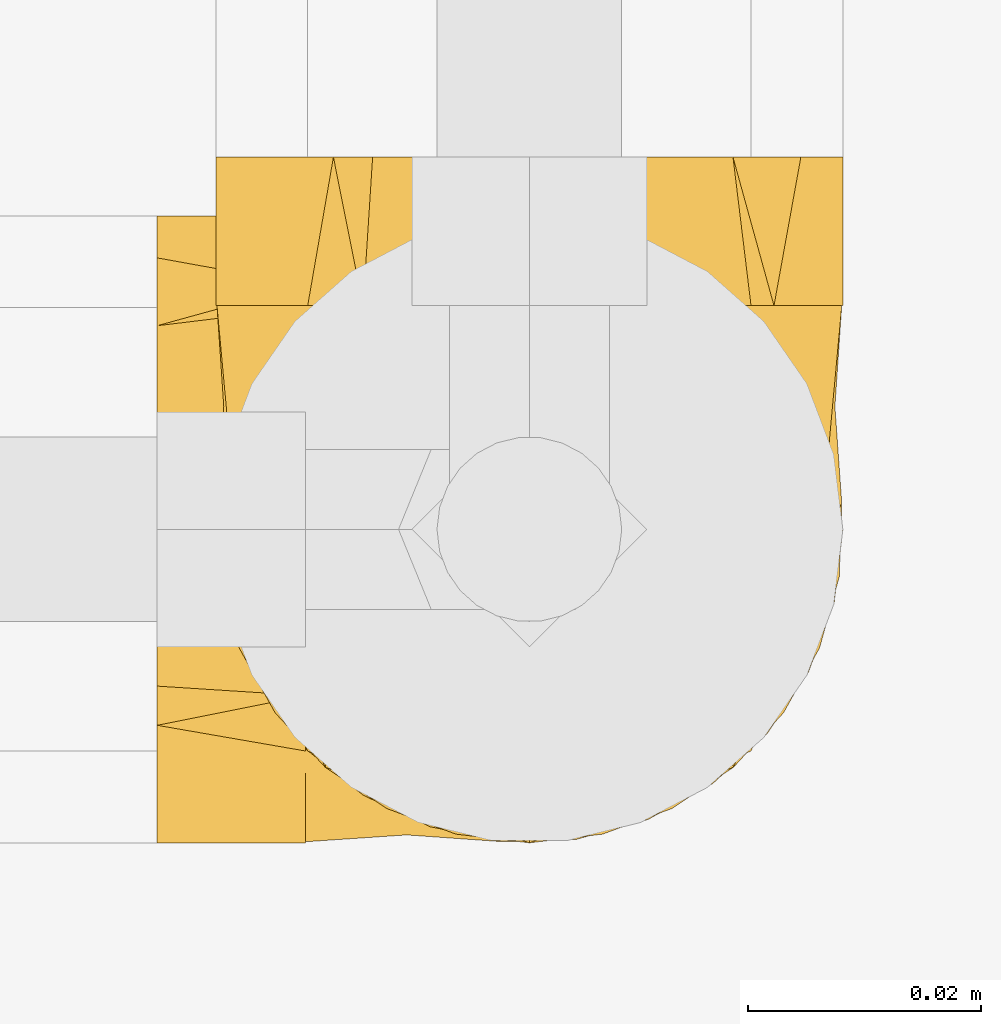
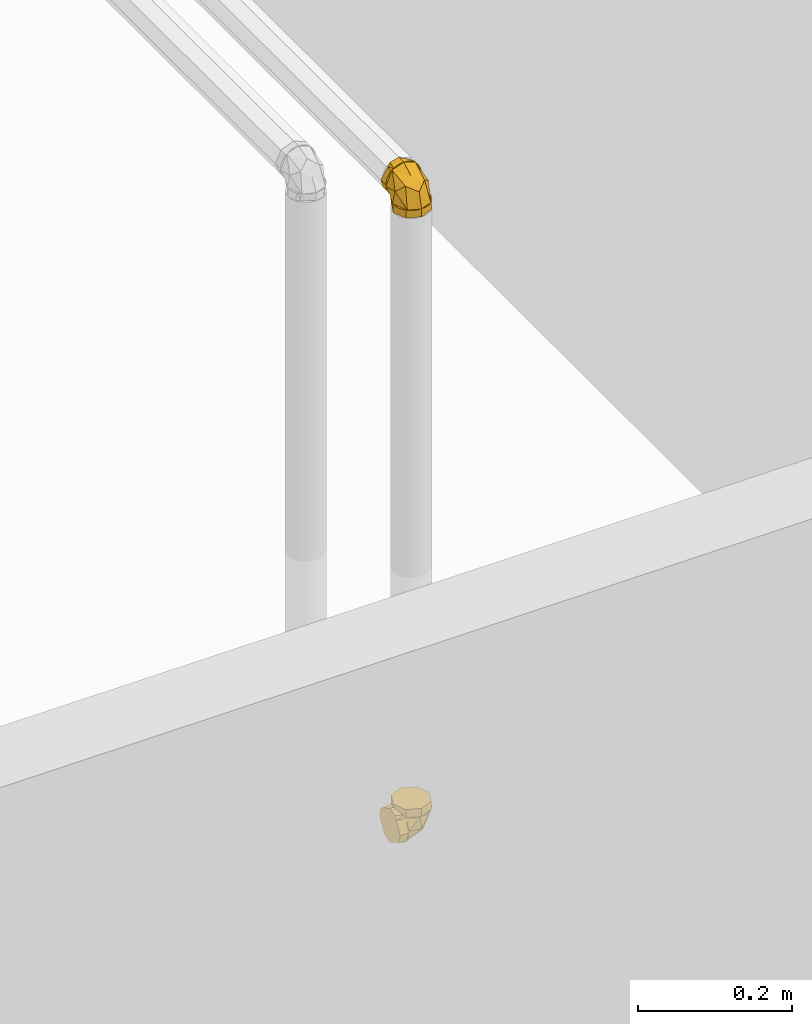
# One storey, part 357 of 652: 2 coverings.
"""IFC2X3 building model written with IfcOpenShell, lengths in millimetres."""

from ifc_helpers import new_model, entity, si_unit, converted_unit, direction, frame, origin, place, context, subcontext, project, spatial, face_set, surface_model, material, type_object, element, save


model = new_model("IFC2X3")

# Units and contexts
model_context = context("Model", 3, precision=0.01, world=frame((0.0, 0.0, 308426.39999999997)), true_north=direction((6.123233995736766e-17, 1.0)))
plan_context = context("Plan", 3, precision=0.01, world=frame((0.0, 0.0, 308426.39999999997)), true_north=direction((6.123233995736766e-17, 1.0)))
body_context = subcontext(model_context, "Body", "Model", "MODEL_VIEW")
ifc_project = project(units=[si_unit("LENGTHUNIT", "METRE", prefix="MILLI"), si_unit("AREAUNIT", "SQUARE_METRE"), si_unit("VOLUMEUNIT", "CUBIC_METRE"), converted_unit("PLANEANGLEUNIT", "DEGREE", entity("IfcPlaneAngleMeasure", 0.017453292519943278), si_unit("PLANEANGLEUNIT", "RADIAN"), dimensions=[0, 0, 0, 0, 0, 0, 0])], contexts=[model_context, plan_context])

# Site, building, storey
site_placement = place(None, origin())
site = spatial("IfcSite", under=ifc_project, at=site_placement, Name="Default", CompositionType="ELEMENT")
building_placement = place(site_placement, origin())
building = spatial("IfcBuilding", under=site, at=building_placement, CompositionType="ELEMENT")
storey_placement = place(building_placement, frame((0.0, 0.0, 1730.6999999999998)))
storey = spatial("IfcBuildingStorey", under=building, at=storey_placement, Name="EG_Produktion_FFB", CompositionType="ELEMENT", Elevation=1730.6999999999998)

# Coverings
ifc_material = material(Name="Dämmung - Armaflex-Schlauch")
covering_type = type_object("IfcCoveringType", Name="Rohrdämmung außen:Armaflex-Schlauch", PredefinedType="INSULATION")
covering_1_placement = place(storey_placement, frame((63671.46722776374, 31873.50378550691, 3668.016249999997)))
element("IfcCovering", 1, at=covering_1_placement, inside=storey, type_object=covering_type, material=ifc_material, Name="Rohrdämmung außen:Armaflex-Schlauch", ObjectType="Rohrdämmung außen:Armaflex-Schlauch", PredefinedType="INSULATION", context=body_context, shape_type="SurfaceModel", body=[
    surface_model("IfcFaceBasedSurfaceModel", [(47.409122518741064, 47.750272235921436, 12.766250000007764), (51.38658262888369, 42.792234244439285, 12.76625000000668), (54.0915642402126, 37.040242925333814, 12.76625000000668), (55.37345654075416, 30.81456370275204, 12.766250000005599), (55.16088498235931, 24.461836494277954, 12.766250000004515), (53.465685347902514, 18.335775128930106, 12.766250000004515), (50.38224474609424, 12.777472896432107, 12.766250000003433), (46.08224622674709, 8.096410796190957, 12.766250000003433), (40.8051096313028, 4.553225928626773, 12.76625000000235), (34.844660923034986, 2.3451994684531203, 12.76625000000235), (28.532772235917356, 1.5952722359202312, 12.76625000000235), (22.220883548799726, 2.3451994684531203, 12.76625000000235), (16.26043484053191, 4.553225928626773, 12.76625000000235), (10.983298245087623, 8.096410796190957, 12.766250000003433), (6.683299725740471, 12.777472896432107, 12.766250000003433), (3.599859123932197, 18.335775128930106, 12.766250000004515), (1.904659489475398, 24.461836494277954, 12.766250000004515), (1.6920879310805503, 30.81456370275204, 12.766250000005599), (2.973980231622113, 37.040242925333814, 12.76625000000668), (5.678961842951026, 42.792234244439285, 12.76625000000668), (9.65642195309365, 47.750272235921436, 12.766250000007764), (51.38658262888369, 47.750272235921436, 17.72428799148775), (54.0915642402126, 47.750272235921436, 23.4762793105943), (55.37345654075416, 47.750272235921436, 29.70195853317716), (55.16088498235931, 47.7502722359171, 36.05468574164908), (53.465685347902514, 47.7502722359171, 42.18074710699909), (50.38224474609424, 47.7502722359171, 47.73904933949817), (46.08224622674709, 47.7502722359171, 52.420111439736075), (40.8051096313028, 47.7502722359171, 55.96329630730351), (34.844660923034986, 47.7502722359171, 58.171322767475), (28.532772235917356, 47.7502722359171, 58.92125000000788), (22.220883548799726, 47.7502722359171, 58.171322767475), (16.26043484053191, 47.7502722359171, 55.96329630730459), (10.983298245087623, 47.7502722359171, 52.420111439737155), (6.683299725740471, 47.7502722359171, 47.73904933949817), (3.599859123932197, 47.7502722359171, 42.18074710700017), (1.904659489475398, 47.7502722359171, 36.05468574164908), (1.6920879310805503, 47.750272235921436, 29.70195853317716), (2.973980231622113, 47.750272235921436, 23.4762793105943), (5.678961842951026, 47.750272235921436, 17.72428799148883), (54.787178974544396, 39.06923695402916, 22.709227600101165), (28.532967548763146, 7.778123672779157, 35.843890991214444), (50.72696168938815, 19.456480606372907, 12.766229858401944), (53.46632936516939, 26.95137196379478, 33.56554168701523), (42.778609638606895, 18.675132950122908, 43.18414062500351), (28.532967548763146, 29.486100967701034, 48.376846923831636), (50.72696168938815, 47.750102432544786, 41.06101440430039), (14.287325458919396, 18.675132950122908, 43.18414062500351), (3.599605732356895, 26.95137196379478, 33.56554168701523), (2.274105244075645, 39.06923695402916, 22.709227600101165), (6.338973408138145, 47.750102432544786, 41.06101440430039), (6.338973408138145, 19.456480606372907, 12.766229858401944), (28.532772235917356, 1.5952722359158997, 0.0), (23.77085000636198, 3.567725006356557, 0.0), (19.008927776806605, 5.540177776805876, 0.0), (14.247005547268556, 7.512630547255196, 0.0), (9.485083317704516, 9.485083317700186, 0.0), (7.512630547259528, 14.24700554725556, 0.0), (5.540177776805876, 19.008927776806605, 0.0), (3.567725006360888, 23.770850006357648, 0.0), (1.5952722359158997, 28.532772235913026, 0.0), (3.567725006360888, 33.29469446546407, 0.0), (5.540177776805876, 38.05661669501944, 0.0), (7.512630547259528, 42.81853892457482, 0.0), (9.485083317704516, 47.580461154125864, 0.0), (14.247005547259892, 49.552913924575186, 0.0), (19.008927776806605, 51.525366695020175, 0.0), (23.77085000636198, 53.49781946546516, 0.0), (28.532772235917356, 55.47027223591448, 0.0), (33.29469446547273, 53.49781946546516, 0.0), (38.056616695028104, 51.525366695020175, 0.0), (42.818538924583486, 49.552913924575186, 0.0), (47.5804611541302, 47.580461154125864, 0.0), (49.552913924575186, 42.81853892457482, 0.0), (51.525366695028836, 38.05661669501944, 0.0), (53.497819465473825, 33.29469446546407, 0.0), (55.47027223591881, 28.532772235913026, 0.0), (53.49781946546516, 23.77085000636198, 0.0), (51.525366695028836, 19.008927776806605, 0.0), (49.552913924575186, 14.247005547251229, 0.0), (47.5804611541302, 9.485083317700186, 0.0), (42.818538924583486, 7.512630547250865, 0.0), (38.056616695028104, 5.540177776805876, 0.0), (33.29469446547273, 3.567725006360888, 0.0), (28.532772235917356, 1.5952722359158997, 12.76625000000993), (33.29469446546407, 3.567725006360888, 12.76625000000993), (38.056616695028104, 5.540177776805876, 12.76625000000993), (42.81853892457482, 7.512630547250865, 12.766250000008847), (47.5804611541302, 9.485083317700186, 12.766250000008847), (49.96980627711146, 15.253472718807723, 12.766250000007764), (52.35915140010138, 21.02186211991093, 12.76625000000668), (55.47027223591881, 28.532772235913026, 12.766250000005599), (53.497819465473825, 33.2946944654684, 12.766250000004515), (51.525366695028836, 38.05661669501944, 12.766250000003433), (49.552913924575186, 42.81853892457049, 12.76625000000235), (47.5804611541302, 47.580461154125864, 12.76625000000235), (41.81207175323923, 49.96980627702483, 12.76625000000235), (36.04368235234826, 52.35915139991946, 12.766250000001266), (28.532772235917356, 55.47027223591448, 12.766250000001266), (23.770850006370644, 53.49781946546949, 12.766250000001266), (19.008927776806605, 51.525366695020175, 12.766250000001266), (14.247005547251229, 49.55291392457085, 12.76625000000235), (9.485083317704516, 47.580461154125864, 12.76625000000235), (7.095738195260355, 41.81207175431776, 12.766250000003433), (4.706393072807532, 36.04368235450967, 12.766250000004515), (1.5952722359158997, 28.532772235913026, 12.766250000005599), (3.567725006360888, 23.770850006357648, 12.76625000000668), (5.540177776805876, 19.008927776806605, 12.766250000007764), (7.512630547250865, 14.247005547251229, 12.766250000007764), (9.485083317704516, 9.485083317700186, 12.766250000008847), (15.253472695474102, 7.095738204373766, 12.766250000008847), (21.021862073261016, 4.706393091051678, 12.76625000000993), (28.532772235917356, 60.516522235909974, 58.92125000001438), (34.36491206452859, 60.51652223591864, 55.554062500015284), (40.197051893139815, 60.51652223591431, 52.1868750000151), (46.02919172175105, 60.51652223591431, 48.819687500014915), (51.86133155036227, 60.516522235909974, 45.45250000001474), (53.66580189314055, 60.516522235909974, 38.718125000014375), (55.47027223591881, 60.516522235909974, 31.98375000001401), (52.10308473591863, 60.51652223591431, 26.151610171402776), (48.73589723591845, 60.51652223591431, 20.31947034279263), (45.368709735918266, 60.51652223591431, 14.487330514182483), (42.00152223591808, 60.516522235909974, 8.655190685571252), (35.26714723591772, 60.516522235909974, 6.850720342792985), (28.532772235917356, 60.516522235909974, 5.046250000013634), (22.700632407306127, 60.51652223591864, 8.413437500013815), (16.868492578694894, 60.51652223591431, 11.780625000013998), (11.036352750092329, 60.51652223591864, 15.14781250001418), (5.204212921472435, 60.516522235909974, 18.51500000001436), (3.3997425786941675, 60.516522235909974, 25.249375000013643), (1.5952722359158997, 60.516522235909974, 31.98375000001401), (4.962459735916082, 60.51652223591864, 37.81588982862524), (8.329647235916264, 60.51652223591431, 43.648029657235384), (11.696834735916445, 60.51652223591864, 49.480169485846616), (15.064022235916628, 60.516522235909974, 55.31230931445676), (21.79839723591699, 60.516522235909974, 57.11677965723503), (28.532772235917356, 47.750272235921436, 58.92125000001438), (23.77085000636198, 47.750272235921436, 56.94879722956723), (19.008927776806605, 47.750272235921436, 54.97634445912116), (14.247005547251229, 47.7502722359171, 53.003891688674), (9.485083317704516, 47.750272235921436, 51.03143891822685), (7.512630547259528, 47.750272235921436, 46.26951668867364), (5.540177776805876, 47.750272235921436, 41.507594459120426), (3.567725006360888, 47.750272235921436, 36.74567222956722), (1.5952722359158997, 47.750272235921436, 31.98375000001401), (3.567725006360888, 47.75027223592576, 27.2218277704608), (5.540177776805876, 47.750272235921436, 22.459905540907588), (7.512630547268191, 47.75027223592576, 17.697983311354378), (9.485083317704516, 47.750272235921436, 12.936061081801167), (14.247005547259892, 47.750272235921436, 10.963608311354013), (19.008927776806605, 47.750272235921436, 8.99115554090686), (23.77085000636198, 47.750272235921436, 7.018702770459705), (28.532772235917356, 47.750272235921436, 5.046250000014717), (33.29469446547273, 47.750272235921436, 7.018702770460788), (38.056616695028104, 47.750272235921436, 8.99115554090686), (42.81853892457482, 47.75027223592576, 10.963608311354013), (47.5804611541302, 47.750272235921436, 12.936061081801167), (49.552913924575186, 47.7502722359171, 17.697983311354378), (51.525366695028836, 47.750272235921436, 22.459905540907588), (53.497819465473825, 47.750272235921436, 27.2218277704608), (55.47027223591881, 47.750272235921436, 31.98375000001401), (53.497819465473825, 47.750272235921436, 36.74567222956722), (51.525366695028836, 47.750272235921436, 41.507594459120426), (49.552913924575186, 47.7502722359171, 46.26951668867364), (47.5804611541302, 47.750272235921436, 51.03143891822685), (42.818538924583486, 47.750272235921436, 53.003891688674), (38.056616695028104, 47.750272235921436, 54.97634445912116), (33.29469446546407, 47.7502722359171, 56.94879722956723)], [face_set([[[0, 1, 2, 3, 4, 5, 6, 7, 8, 9, 10, 11, 12, 13, 14, 15, 16, 17, 18, 19]], [[20, 21, 22, 23, 24, 25, 26, 27, 28, 29, 30, 31, 32, 33, 34, 35, 36, 37, 38, 39]], [[0, 40, 3]], [[10, 7, 41]], [[42, 3, 43]], [[40, 43, 3]], [[23, 40, 0]], [[7, 43, 44]], [[45, 41, 44]], [[7, 44, 41]], [[27, 30, 45]], [[45, 44, 27]], [[43, 27, 44]], [[43, 23, 46, 27]], [[43, 7, 42]], [[23, 43, 40]], [[13, 10, 41]], [[33, 47, 45]], [[45, 30, 33]], [[48, 47, 33]], [[49, 48, 37]], [[50, 37, 48, 33]], [[45, 47, 41]], [[20, 49, 37]], [[47, 48, 13]], [[17, 49, 20]], [[41, 47, 13]], [[48, 17, 51]], [[17, 48, 49]], [[51, 13, 48]]]), face_set([[[52, 53, 54, 55, 56, 57, 58, 59, 60, 61, 62, 63, 64, 65, 66, 67, 68, 69, 70, 71, 72, 73, 74, 75, 76, 77, 78, 79, 80, 81, 82, 83]], [[84, 85, 86, 87, 88, 89, 90, 91, 92, 93, 94, 95, 96, 97, 98, 99, 100, 101, 102, 103, 104, 105, 106, 107, 108, 109, 110, 111]], [[111, 110, 109, 56, 55, 54, 53, 52, 84]], [[56, 109, 108, 107, 106, 105, 60, 59, 58, 57]], [[104, 103, 102, 64, 63, 62, 61, 60, 105]], [[64, 102, 101, 100, 99, 98, 68, 67, 66, 65]], [[97, 96, 95, 72, 71, 70, 69, 68, 98]], [[72, 95, 94, 93, 92, 91, 76, 75, 74, 73]], [[90, 89, 88, 80, 79, 78, 77, 76, 91]], [[80, 88, 87, 86, 85, 84, 52, 83, 82, 81]]]), face_set([[[112, 113, 114, 115, 116, 117, 118, 119, 120, 121, 122, 123, 124, 125, 126, 127, 128, 129, 130, 131, 132, 133, 134, 135]], [[136, 137, 138, 139, 140, 141, 142, 143, 144, 145, 146, 147, 148, 149, 150, 151, 152, 153, 154, 155, 156, 157, 158, 159, 160, 161, 162, 163, 164, 165, 166, 167]], [[155, 121, 156]], [[118, 159, 119]], [[159, 158, 119]], [[123, 154, 153]], [[153, 152, 124]], [[121, 155, 122]], [[120, 158, 157]], [[118, 160, 159]], [[158, 120, 119]], [[124, 123, 153]], [[157, 156, 121]], [[155, 154, 122]], [[123, 122, 154]], [[120, 157, 121]], [[163, 115, 164]], [[112, 167, 113]], [[167, 166, 113]], [[117, 162, 161]], [[161, 160, 118]], [[115, 163, 116]], [[114, 166, 165]], [[112, 136, 167]], [[166, 114, 113]], [[118, 117, 161]], [[165, 164, 115]], [[163, 162, 116]], [[117, 116, 162]], [[114, 165, 115]], [[139, 133, 140]], [[130, 143, 131]], [[143, 142, 131]], [[135, 138, 137]], [[137, 136, 112]], [[133, 139, 134]], [[132, 142, 141]], [[130, 144, 143]], [[142, 132, 131]], [[112, 135, 137]], [[141, 140, 133]], [[139, 138, 134]], [[135, 134, 138]], [[132, 141, 133]], [[147, 127, 148]], [[124, 151, 125]], [[151, 150, 125]], [[129, 146, 145]], [[145, 144, 130]], [[127, 147, 128]], [[126, 150, 149]], [[124, 152, 151]], [[150, 126, 125]], [[130, 129, 145]], [[149, 148, 127]], [[147, 146, 128]], [[129, 128, 146]], [[126, 149, 127]]])]),
])
covering_2_placement = place(storey_placement, frame((63668.01624999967, 31873.503785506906, 2671.46722776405)))
element("IfcCovering", 2, at=covering_2_placement, inside=storey, type_object=covering_type, material=ifc_material, Name="Rohrdämmung außen:Armaflex-Schlauch", ObjectType="Rohrdämmung außen:Armaflex-Schlauch", PredefinedType="INSULATION", context=body_context, shape_type="SurfaceModel", body=[
    surface_model("IfcFaceBasedSurfaceModel", [(12.766249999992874, 9.65642195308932, 47.750272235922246), (17.724287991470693, 5.678961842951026, 47.750272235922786), (23.47627931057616, 2.973980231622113, 47.750272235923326), (29.70195853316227, 1.6920879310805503, 47.75027223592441), (36.054685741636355, 1.9046594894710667, 47.75027223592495), (42.1807471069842, 3.5998591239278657, 47.75027223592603), (47.7390493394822, 6.683299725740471, 47.75027223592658), (52.420111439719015, 10.983298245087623, 47.75027223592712), (55.963296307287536, 16.26043484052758, 47.75027223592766), (58.17132276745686, 22.220883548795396, 47.75027223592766), (58.921249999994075, 28.532772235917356, 47.75027223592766), (58.17132276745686, 34.84466092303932, 47.75027223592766), (55.963296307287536, 40.80510963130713, 47.75027223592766), (52.420111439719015, 46.08224622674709, 47.75027223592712), (47.7390493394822, 50.38224474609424, 47.75027223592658), (42.1807471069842, 53.46568534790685, 47.75027223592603), (36.054685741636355, 55.16088498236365, 47.75027223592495), (29.70195853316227, 55.37345654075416, 47.75027223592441), (23.47627931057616, 54.0915642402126, 47.750272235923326), (17.724287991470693, 51.38658262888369, 47.750272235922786), (12.766249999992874, 47.40912251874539, 47.750272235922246), (12.766249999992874, 51.38658262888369, 42.79223424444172), (12.766249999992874, 54.0915642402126, 37.04024292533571), (12.766249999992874, 55.37345654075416, 30.81456370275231), (12.766249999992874, 55.16088498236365, 24.46183649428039), (12.766249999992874, 53.46568534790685, 18.33577512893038), (12.766249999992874, 50.38224474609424, 12.777472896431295), (12.766250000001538, 46.08224622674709, 8.096410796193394), (12.766250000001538, 40.80510963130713, 4.553225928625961), (12.766250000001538, 34.84466092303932, 2.3451994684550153), (12.766250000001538, 28.532772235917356, 1.5952722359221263), (12.766250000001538, 22.220883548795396, 2.3451994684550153), (12.766250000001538, 16.26043484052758, 4.553225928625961), (12.766250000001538, 10.983298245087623, 8.096410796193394), (12.766249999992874, 6.683299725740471, 12.777472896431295), (12.766249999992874, 3.5998591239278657, 18.33577512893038), (12.766249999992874, 1.9046594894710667, 24.46183649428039), (12.766249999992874, 1.6920879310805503, 30.81456370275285), (12.766249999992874, 2.973980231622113, 37.04024292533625), (12.766249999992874, 5.678961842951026, 42.79223424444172), (21.445053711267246, 2.276133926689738, 37.80740068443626), (52.73616699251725, 28.532670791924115, 24.672737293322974), (33.565244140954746, 3.599308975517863, 26.951086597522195), (41.06246093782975, 6.338676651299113, 47.750398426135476), (31.030515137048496, 28.532670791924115, 12.139781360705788), (41.843808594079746, 14.284703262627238, 17.332487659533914), (12.766513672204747, 6.338676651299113, 19.45561388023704), (41.843808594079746, 42.78063832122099, 17.332487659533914), (33.565244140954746, 53.466032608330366, 26.951086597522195), (21.445053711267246, 54.78920765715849, 37.80740068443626), (12.766513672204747, 50.72899037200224, 19.45561388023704), (41.06246093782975, 50.72899037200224, 47.750398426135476), (58.921250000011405, 28.532772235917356, 60.5165222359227), (56.94879722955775, 33.2946944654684, 60.51652223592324), (54.97634445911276, 38.05661669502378, 60.51652223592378), (53.00389168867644, 42.81853892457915, 60.51652223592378), (51.03143891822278, 47.5804611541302, 60.51652223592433), (46.26951668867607, 49.552913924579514, 60.51652223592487), (41.507594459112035, 51.5253666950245, 60.51652223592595), (36.74567222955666, 53.49781946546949, 60.51652223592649), (31.983750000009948, 55.47027223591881, 60.516522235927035), (27.22182777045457, 53.49781946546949, 60.516522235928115), (22.459905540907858, 51.5253666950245, 60.516522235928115), (17.697983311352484, 49.552913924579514, 60.516522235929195), (12.936061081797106, 47.5804611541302, 60.51652223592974), (10.963608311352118, 42.81853892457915, 60.51652223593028), (8.99115554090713, 38.05661669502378, 60.51652223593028), (7.018702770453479, 33.2946944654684, 60.51652223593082), (5.046250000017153, 28.532772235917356, 60.51652223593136), (7.018702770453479, 23.770850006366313, 60.51652223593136), (8.99115554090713, 19.008927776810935, 60.51652223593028), (10.963608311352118, 14.24700554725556, 60.51652223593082), (12.936061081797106, 9.485083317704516, 60.51652223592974), (17.697983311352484, 7.512630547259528, 60.516522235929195), (22.459905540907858, 5.540177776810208, 60.516522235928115), (27.22182777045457, 3.567725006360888, 60.516522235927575), (31.983750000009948, 1.5952722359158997, 60.516522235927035), (36.74567222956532, 3.5677250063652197, 60.51652223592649), (41.507594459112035, 5.540177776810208, 60.51652223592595), (46.26951668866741, 7.512630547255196, 60.51652223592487), (51.03143891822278, 9.485083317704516, 60.51652223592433), (53.00389168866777, 14.24700554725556, 60.51652223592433), (54.97634445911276, 19.008927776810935, 60.51652223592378), (56.948797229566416, 23.770850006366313, 60.5165222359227), (58.92125000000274, 28.532772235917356, 47.75027223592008), (56.948797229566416, 23.770850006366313, 47.750272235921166), (54.97634445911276, 19.008927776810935, 47.750272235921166), (53.00389168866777, 14.24700554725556, 47.750272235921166), (51.03143891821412, 9.485083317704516, 47.750272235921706), (45.26304951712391, 7.095738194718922, 47.750272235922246), (39.49466011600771, 4.706393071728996, 47.750272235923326), (31.983750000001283, 1.5952722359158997, 47.75027223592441), (27.221827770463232, 3.5677250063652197, 47.75027223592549), (22.459905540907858, 5.540177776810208, 47.75027223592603), (17.69798331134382, 7.512630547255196, 47.75027223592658), (12.936061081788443, 9.485083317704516, 47.75027223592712), (10.546715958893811, 15.253472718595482, 47.7502722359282), (8.157370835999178, 21.021862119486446, 47.7502722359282), (5.046250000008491, 28.532772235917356, 47.75027223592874), (7.018702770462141, 33.29469446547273, 47.75027223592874), (8.99115554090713, 38.05661669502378, 47.7502722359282), (10.963608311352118, 42.81853892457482, 47.75027223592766), (12.936061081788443, 47.5804611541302, 47.75027223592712), (18.704450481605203, 49.96980627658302, 47.75027223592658), (24.472839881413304, 52.35915139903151, 47.75027223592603), (31.983750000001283, 55.47027223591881, 47.75027223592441), (36.74567222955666, 53.49781946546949, 47.75027223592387), (41.507594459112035, 51.5253666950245, 47.750272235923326), (46.26951668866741, 49.552913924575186, 47.750272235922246), (51.03143891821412, 47.5804611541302, 47.750272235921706), (53.42078403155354, 41.81207177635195, 47.750272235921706), (55.81012914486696, 36.0436823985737, 47.750272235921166), (0.0, 28.532772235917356, 1.5952722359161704), (0.0, 22.700632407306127, 4.962459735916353), (0.0, 16.868492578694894, 8.329647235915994), (0.0, 11.036352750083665, 11.696834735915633), (0.0, 5.204212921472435, 15.064022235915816), (0.0, 3.3997425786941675, 21.798397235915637), (0.0, 1.5952722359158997, 28.532772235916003), (0.0, 4.9624597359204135, 34.36491206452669), (0.0, 8.329647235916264, 40.19705189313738), (0.0, 11.696834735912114, 46.02919172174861), (0.0, 15.064022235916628, 51.861331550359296), (0.0, 21.79839723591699, 53.66580189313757), (0.0, 28.532772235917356, 55.470272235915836), (0.0, 34.36491206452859, 52.10308473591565), (0.0, 40.197051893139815, 48.73589723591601), (0.0, 46.02919172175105, 45.36870973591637), (0.0, 51.86133155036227, 42.00152223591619), (0.0, 53.66580189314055, 35.26714723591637), (0.0, 55.47027223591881, 28.532772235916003), (0.0, 52.10308473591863, 22.700632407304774), (0.0, 48.73589723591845, 16.868492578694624), (0.0, 45.368709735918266, 11.036352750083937), (0.0, 42.00152223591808, 5.204212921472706), (0.0, 35.26714723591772, 3.3997425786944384), (12.766250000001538, 28.532772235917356, 1.5952722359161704), (12.766250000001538, 33.2946944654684, 3.567725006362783), (12.766250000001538, 38.05661669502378, 5.540177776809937), (12.766250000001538, 42.81853892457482, 7.512630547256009), (12.766250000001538, 47.5804611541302, 9.485083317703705), (12.766250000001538, 49.552913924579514, 14.247005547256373), (12.766250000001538, 51.5253666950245, 19.008927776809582), (12.766250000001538, 53.49781946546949, 23.770850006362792), (12.766250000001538, 55.47027223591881, 28.532772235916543), (12.766250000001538, 53.49781946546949, 33.29469446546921), (12.766250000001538, 51.5253666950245, 38.05661669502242), (12.766250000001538, 49.552913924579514, 42.818538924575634), (12.766250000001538, 47.5804611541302, 47.58046115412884), (12.766250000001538, 42.81853892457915, 49.552913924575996), (12.766250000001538, 38.05661669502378, 51.525366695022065), (12.766250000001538, 33.2946944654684, 53.49781946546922), (12.766250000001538, 28.532772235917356, 55.470272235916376), (12.766250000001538, 23.77085000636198, 53.49781946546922), (12.766250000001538, 19.008927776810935, 51.525366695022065), (12.766250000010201, 14.247005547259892, 49.552913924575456), (12.766250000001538, 9.485083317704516, 47.58046115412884), (12.766250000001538, 7.512630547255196, 42.818538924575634), (12.766250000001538, 5.540177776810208, 38.05661669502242), (12.766250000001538, 3.5677250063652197, 33.29469446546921), (12.766250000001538, 1.5952722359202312, 28.532772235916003), (12.766250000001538, 3.5677250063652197, 23.770850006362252), (12.766250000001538, 5.540177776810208, 19.008927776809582), (12.766250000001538, 7.512630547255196, 14.247005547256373), (12.766250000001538, 9.485083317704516, 9.485083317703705), (12.766250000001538, 14.24700554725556, 7.51263054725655), (12.766250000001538, 19.008927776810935, 5.540177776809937), (12.766250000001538, 23.770850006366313, 3.567725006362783)], [face_set([[[0, 1, 2, 3, 4, 5, 6, 7, 8, 9, 10, 11, 12, 13, 14, 15, 16, 17, 18, 19]], [[20, 21, 22, 23, 24, 25, 26, 27, 28, 29, 30, 31, 32, 33, 34, 35, 36, 37, 38, 39]], [[0, 40, 3]], [[10, 7, 41]], [[37, 42, 40]], [[42, 7, 43]], [[37, 40, 0]], [[3, 40, 42]], [[44, 41, 45]], [[7, 45, 41]], [[33, 30, 44]], [[44, 45, 33]], [[42, 33, 45]], [[42, 37, 46]], [[7, 42, 45]], [[43, 3, 42]], [[46, 33, 42]], [[13, 10, 41]], [[27, 47, 44]], [[44, 30, 27]], [[48, 47, 27]], [[49, 48, 23]], [[48, 50, 23]], [[44, 47, 41]], [[20, 49, 23]], [[47, 48, 13]], [[17, 49, 20]], [[41, 47, 13]], [[48, 17, 51]], [[48, 27, 50]], [[17, 48, 49]], [[51, 13, 48]]]), face_set([[[52, 53, 54, 55, 56, 57, 58, 59, 60, 61, 62, 63, 64, 65, 66, 67, 68, 69, 70, 71, 72, 73, 74, 75, 76, 77, 78, 79, 80, 81, 82, 83]], [[84, 85, 86, 87, 88, 89, 90, 91, 92, 93, 94, 95, 96, 97, 98, 99, 100, 101, 102, 103, 104, 105, 106, 107, 108, 109, 110, 111]], [[111, 110, 109, 56, 55, 54, 53, 52, 84]], [[56, 109, 108, 107, 106, 105, 60, 59, 58, 57]], [[104, 103, 102, 64, 63, 62, 61, 60, 105]], [[64, 102, 101, 100, 99, 98, 68, 67, 66, 65]], [[97, 96, 95, 72, 71, 70, 69, 68, 98]], [[72, 95, 94, 93, 92, 91, 76, 75, 74, 73]], [[90, 89, 88, 80, 79, 78, 77, 76, 91]], [[80, 88, 87, 86, 85, 84, 52, 83, 82, 81]]]), face_set([[[112, 113, 114, 115, 116, 117, 118, 119, 120, 121, 122, 123, 124, 125, 126, 127, 128, 129, 130, 131, 132, 133, 134, 135]], [[136, 137, 138, 139, 140, 141, 142, 143, 144, 145, 146, 147, 148, 149, 150, 151, 152, 153, 154, 155, 156, 157, 158, 159, 160, 161, 162, 163, 164, 165, 166, 167]], [[155, 121, 156]], [[118, 159, 119]], [[159, 158, 119]], [[123, 154, 153]], [[153, 152, 124]], [[121, 155, 122]], [[120, 158, 157]], [[118, 160, 159]], [[158, 120, 119]], [[124, 123, 153]], [[157, 156, 121]], [[155, 154, 122]], [[123, 122, 154]], [[120, 157, 121]], [[163, 115, 164]], [[112, 167, 113]], [[167, 166, 113]], [[117, 162, 161]], [[161, 160, 118]], [[115, 163, 116]], [[114, 166, 165]], [[112, 136, 167]], [[166, 114, 113]], [[118, 117, 161]], [[165, 164, 115]], [[163, 162, 116]], [[117, 116, 162]], [[114, 165, 115]], [[139, 133, 140]], [[130, 143, 131]], [[143, 142, 131]], [[135, 138, 137]], [[137, 136, 112]], [[133, 139, 134]], [[132, 142, 141]], [[130, 144, 143]], [[142, 132, 131]], [[112, 135, 137]], [[141, 140, 133]], [[139, 138, 134]], [[135, 134, 138]], [[132, 141, 133]], [[147, 127, 148]], [[124, 151, 125]], [[151, 150, 125]], [[129, 146, 145]], [[145, 144, 130]], [[127, 147, 128]], [[126, 150, 149]], [[124, 152, 151]], [[150, 126, 125]], [[130, 129, 145]], [[149, 148, 127]], [[147, 146, 128]], [[129, 128, 146]], [[126, 149, 127]]])]),
])

save(model, "model.ifc")
